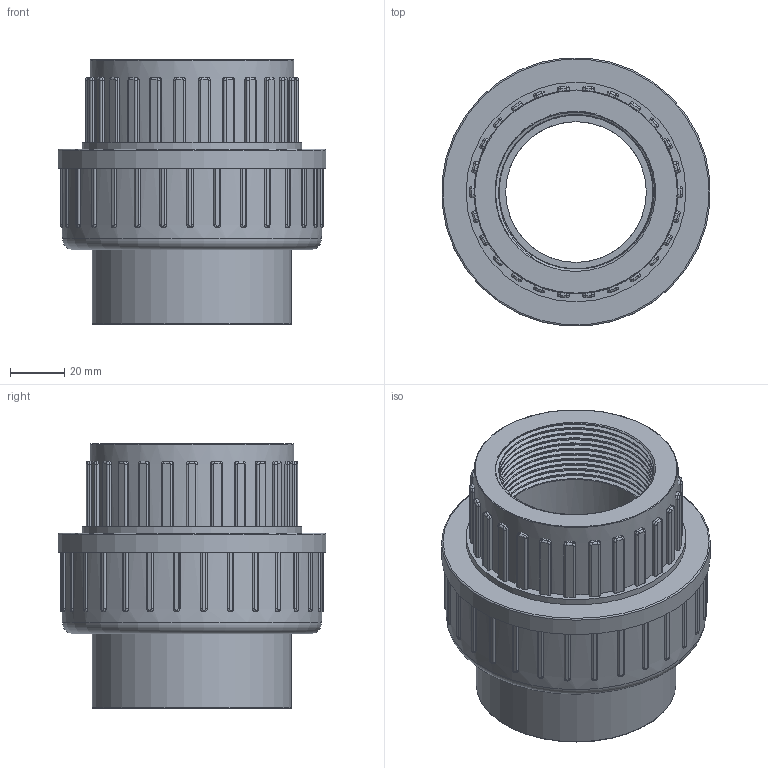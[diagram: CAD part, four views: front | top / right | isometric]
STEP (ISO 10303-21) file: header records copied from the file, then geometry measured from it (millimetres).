
FILE_DESCRIPTION(/* description */ (''),/* implementation_level */ '2;1');
FILE_NAME(/* name */ 'C:\Users\POLYPIPE\Desktop\DATASET INVENTOR\LIBRERIA EFFAST\3D_RACCORDI\RER\3D_RERBOE\3D_RERBOE063G.stp',/* time_stamp */ '2018-01-22T15:57:29+01:00',/* author */ ('POLYPIPE'),/* organization */ (''),/* preprocessor_version */ 'ST-DEVELOPER v16.1',/* originating_system */ 'Autodesk Inventor 2016',/* authorisation */ '');
FILE_SCHEMA (('CONFIG_CONTROL_DESIGN'));
Length unit declared in the file: centimetre
Products named in the file (1): 3D_RERBOE
Bounding box: 98.65 x 98.65 x 97.5 mm (x, y, z)
Volume: 289382.1 mm3; surface area: 68193.4 mm2
Topology: 1 solids, 2 shells, 538 faces, 1439 edges, 913 vertices
Faces by surface type: cylinder 232, plane 208, bspline 92, torus 4, cone 2
Full cylindrical faces by diameter (mm): 51.8 x1, 51.9 x1, 56.656 x2, 73.6 x1, 74.3 x1, 75 x1, 78.6 x1, 79.3 x1, 80.9 x1, 95.7 x1, 99 x1
Entity records: 26292 total; most frequent: CARTESIAN_POINT 12563, ORIENTED_EDGE 2832, DIRECTION 2728, EDGE_CURVE 1416, AXIS2_PLACEMENT_3D 1001, VERTEX_POINT 907, LINE 726, VECTOR 726
